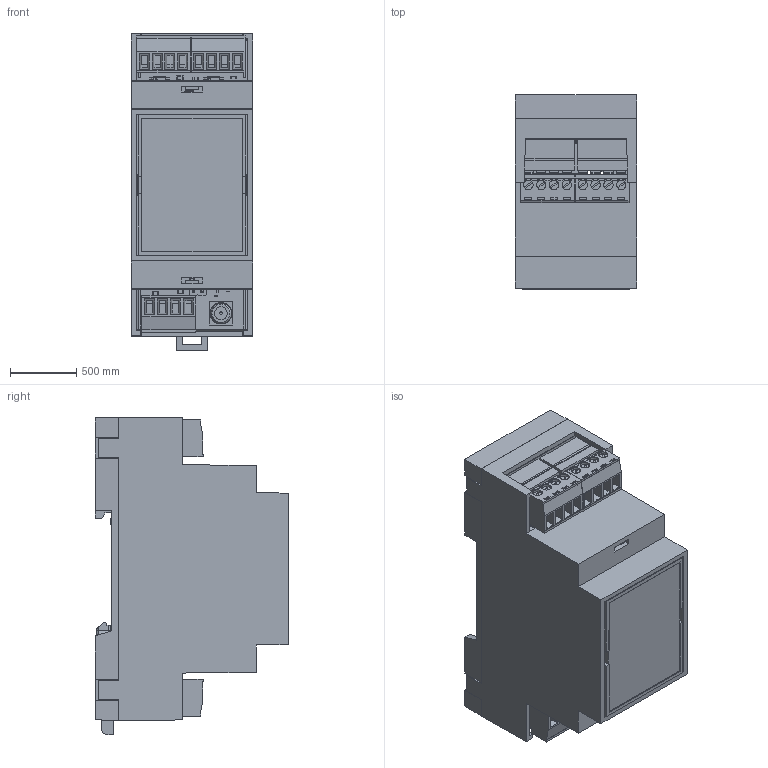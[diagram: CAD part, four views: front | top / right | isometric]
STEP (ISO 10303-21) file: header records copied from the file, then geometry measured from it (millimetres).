
FILE_DESCRIPTION(/* description */ (''),/* implementation_level */ '2;1');
FILE_NAME(/* name */ 'C:\Enapter\Datasheets\ENP-AI4 Module\ENP-AI4_Cad_3d.stp',/* time_stamp */ '2020-06-02T12:36:18+03:00',/* author */ ('IgorAzarkh'),/* organization */ (''),/* preprocessor_version */ 'ST-DEVELOPER v18',/* originating_system */ 'AutoCAD Mechanical',/* authorisation */ '');
FILE_SCHEMA (('AUTOMOTIVE_DESIGN { 1 0 10303 214 3 1 1 }'));
Products named in the file (49): Product; D2MG-BASE; D2MG-BODY; D2MG-COVER; D3MG-WALL-CLIP; PhoenixContact_MCV_1$5_4-G-3.5_1x04_P3.50mm_Vertical; SOLID$2$ATF; SOT-23-5; SOLID$4$ATF; MSOP-10_3x3mm_P0.5mm; SOLID$5$ATF; SOIC-16W_7.5x10.3mm_P1.27mm; SOLID$6$ATF; User_Library-DCDCSIL4; COMPOUND; SOT-223; SOLID$7$ATF; PinHeader_1x02_P2.54mm_Vertical; SOLID$10$ATF; C_0402_1005Metric; SOLID$13$ATF; C_0603_1608Metric; SOLID$12$ATF; C_1210_3225Metric; SOLID$14$ATF; C_0805_2012Metric; SOLID$11$ATF; D_MiniMELF; SOLID$15$ATF; SMA-J; COMPOUND$2$ATF; L_0402_1005Metric; SOLID$17$ATF; L_Bourns_SRN6045TA; SOLID$18$ATF; SOT-23; SOLID$19$ATF; R_0402_1005Metric; SOLID$9$ATF; R_0805_2012Metric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
Assembly tree (107 placements, depth 3):
  Product
    D2MG-BASE
    D2MG-BODY
    D2MG-COVER
    D3MG-WALL-CLIP
    PhoenixContact_MCV_1$5_4-G-3.5_1x04_P3.50mm_Vertical  x3
      SOLID$2$ATF
    SOIC-8_3.9x4.9mm_P1.27mm  x5
      SOLID$3$ATF
    SOT-23-5
      SOLID$4$ATF
    MSOP-10_3x3mm_P0.5mm
      SOLID$5$ATF
    SOIC-16W_7.5x10.3mm_P1.27mm
      SOLID$6$ATF
    User_Library-DCDCSIL4  x2
      COMPOUND
    SOT-223
      SOLID$7$ATF
    R_0805_2012Metric  x8
      SOLID$8$ATF
    R_0402_1005Metric  x21
      SOLID$9$ATF
    PinHeader_1x02_P2.54mm_Vertical
      SOLID$10$ATF
    C_0805_2012Metric  x14
      SOLID$11$ATF
    C_0603_1608Metric  x3
      SOLID$12$ATF
    C_0402_1005Metric  x7
      SOLID$13$ATF
    C_1210_3225Metric  x3
      SOLID$14$ATF
    D_MiniMELF
      SOLID$15$ATF
    SMA-J
      COMPOUND$2$ATF
    L_0402_1005Metric
      SOLID$17$ATF
    L_Bourns_SRN6045TA
      SOLID$18$ATF
    SOT-23
      SOLID$19$ATF
    QFN-48-1EP_7x7mm_P0.5mm_EP5.3x5.3mm
      SOLID$20$ATF
    SOT-23-6
      SOLID$21$ATF
    COMPOUND$3$ATF
    ¦ð÷·õü ýð ÿûð
ªº 15EDGK-3.81-3 (Degson)  x3
Bounding box: 922.02 x 1465.58 x 2398.41 mm (x, y, z)
Volume: 701853761.4 mm3; surface area: 39392220.3 mm2
Topology: 109 solids, 140 shells, 6384 faces, 16581 edges, 10696 vertices
Faces by surface type: plane 4993, cylinder 1321, bspline 34, cone 16, torus 16, sphere 4
Full cylindrical faces by diameter (mm): 5.08 x20, 10.16 x1, 12.7 x1, 15.24 x14, 20.32 x4, 25.146 x2, 25.4 x32, 30.48 x15, 33.02 x2, 34.29 x2, 35.56 x3, 38.1 x4, 43.18 x4, 50.8 x4, 79.756 x1, 81.28 x4, 88.9 x1
Entity records: 121968 total; most frequent: CARTESIAN_POINT 33144, ORIENTED_EDGE 18228, DIRECTION 17745, EDGE_CURVE 9183, LINE 7815, VECTOR 7815, VERTEX_POINT 5923, AXIS2_PLACEMENT_3D 4965
